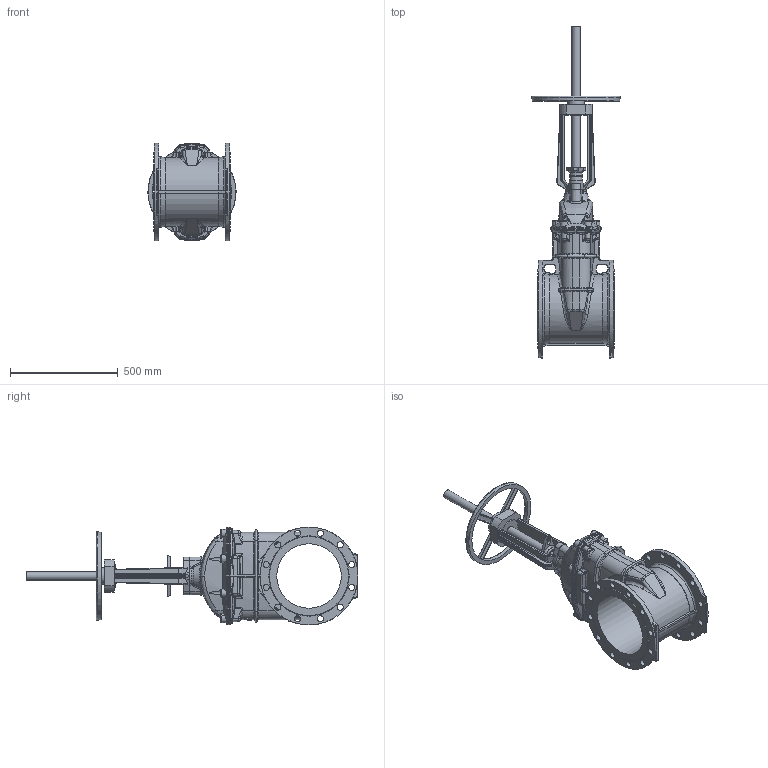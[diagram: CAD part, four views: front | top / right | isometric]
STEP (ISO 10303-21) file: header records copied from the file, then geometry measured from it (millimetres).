
FILE_DESCRIPTION (( 'STEP AP203' ), '1' );
FILE_NAME ('O_21_34_DN300_41XXXXX open_AA0.step', '2020-02-12T09:41:48', ( 'Windows User' ), ( 'AVK' ), 'SwSTEP 2.0', 'SolidWorks 2012', '' );
FILE_SCHEMA (( 'CONFIG_CONTROL_DESIGN' ));
Products named in the file (1): O_21_34_DN300_41XXXXX open_AA0
Bounding box: 409.9 x 1542 x 455 mm (x, y, z)
Volume: 35072027.3 mm3; surface area: 2080657.7 mm2
Topology: 1 solids, 1 shells, 1065 faces, 2718 edges, 1648 vertices
Faces by surface type: bspline 388, plane 232, cylinder 221, cone 140, torus 80, sphere 4
Full cylindrical faces by diameter (mm): 28 x24, 40 x2, 55.9 x1, 60 x1, 64 x1, 77 x1, 105 x2, 300 x1, 455 x2
Entity records: 49467 total; most frequent: CARTESIAN_POINT 27622, ORIENTED_EDGE 5230, DIRECTION 3640, EDGE_CURVE 2615, VERTEX_POINT 1609, AXIS2_PLACEMENT_3D 1489, EDGE_LOOP 1188, FACE_OUTER_BOUND 1104
